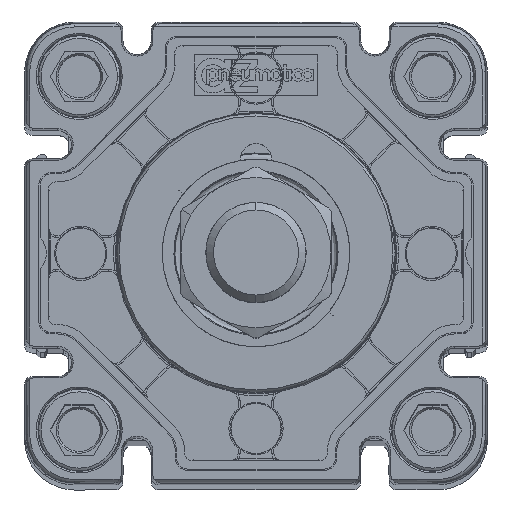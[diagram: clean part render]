
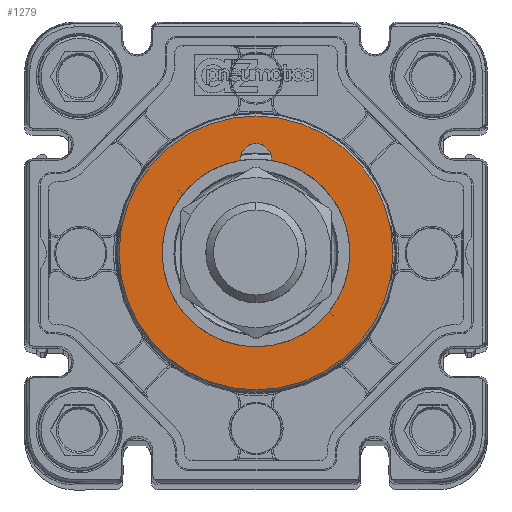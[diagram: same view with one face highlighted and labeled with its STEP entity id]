
A CAD part, top view. The second image highlights one B-rep face of the part: STEP entity #1279.
In plain terms, the highlighted planar face has unit normal (0, 0, 1) as drawn and (0, 0, -1) by its records, which use the part's own axes.
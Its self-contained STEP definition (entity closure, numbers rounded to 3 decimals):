
#571 = CIRCLE ( 'NONE', #4687, 21.892 ) ;
#805 = CIRCLE ( 'NONE', #29988, 15. ) ;
#922 = CARTESIAN_POINT ( 'NONE',  ( 15., 0., -57.7 ) ) ;
#1279 = ADVANCED_FACE ( 'NONE', ( #50658, #9394 ), #8314, .T. ) ;
#1315 = DIRECTION ( 'NONE',  ( 0., 0., 1. ) ) ;
#1653 = AXIS2_PLACEMENT_3D ( 'NONE', #32990, #16845, #5579 ) ;
#1676 = VERTEX_POINT ( 'NONE', #3590 ) ;
#1735 = EDGE_LOOP ( 'NONE', ( #44797, #19265, #39100, #23826, #10485, #16586 ) ) ;
#1901 = AXIS2_PLACEMENT_3D ( 'NONE', #22457, #2063, #10361 ) ;
#2063 = DIRECTION ( 'NONE',  ( 0., 0., 1. ) ) ;
#3524 = DIRECTION ( 'NONE',  ( -1., 0., 0. ) ) ;
#3590 = CARTESIAN_POINT ( 'NONE',  ( -21.892, 0., -57.7 ) ) ;
#4455 = ORIENTED_EDGE ( 'NONE', *, *, #33912, .F. ) ;
#4687 = AXIS2_PLACEMENT_3D ( 'NONE', #12966, #5143, #21697 ) ;
#5143 = DIRECTION ( 'NONE',  ( 0., 0., 1. ) ) ;
#5579 = DIRECTION ( 'NONE',  ( -1., 0., 0. ) ) ;
#6770 = CARTESIAN_POINT ( 'NONE',  ( 0., 0., -57.7 ) ) ;
#8214 = EDGE_CURVE ( 'NONE', #1676, #31224, #571, .T. ) ;
#8314 = PLANE ( 'NONE',  #1653 ) ;
#8614 = CIRCLE ( 'NONE', #51805, 2.5 ) ;
#9394 = FACE_BOUND ( 'NONE', #1735, .T. ) ;
#10361 = DIRECTION ( 'NONE',  ( 1., 0., 0. ) ) ;
#10485 = ORIENTED_EDGE ( 'NONE', *, *, #11847, .T. ) ;
#11344 = CIRCLE ( 'NONE', #16799, 2.5 ) ;
#11847 = EDGE_CURVE ( 'NONE', #22023, #40910, #30019, .T. ) ;
#12327 = DIRECTION ( 'NONE',  ( 1., 0., 0. ) ) ;
#12672 = VERTEX_POINT ( 'NONE', #44370 ) ;
#12966 = CARTESIAN_POINT ( 'NONE',  ( 0., 0., -57.7 ) ) ;
#13496 = VERTEX_POINT ( 'NONE', #17155 ) ;
#14884 = VERTEX_POINT ( 'NONE', #25681 ) ;
#15180 = CARTESIAN_POINT ( 'NONE',  ( 0., 0., -57.7 ) ) ;
#16432 = DIRECTION ( 'NONE',  ( 0., 0., 1. ) ) ;
#16586 = ORIENTED_EDGE ( 'NONE', *, *, #21418, .T. ) ;
#16799 = AXIS2_PLACEMENT_3D ( 'NONE', #36772, #32359, #49166 ) ;
#16845 = DIRECTION ( 'NONE',  ( 0., 0., -1. ) ) ;
#16926 = EDGE_CURVE ( 'NONE', #12672, #42605, #11344, .T. ) ;
#17155 = CARTESIAN_POINT ( 'NONE',  ( 2.491, 14.792, -57.7 ) ) ;
#19265 = ORIENTED_EDGE ( 'NONE', *, *, #16926, .T. ) ;
#20512 = CARTESIAN_POINT ( 'NONE',  ( 0., 0., -57.7 ) ) ;
#21418 = EDGE_CURVE ( 'NONE', #40910, #13496, #805, .T. ) ;
#21697 = DIRECTION ( 'NONE',  ( -1., 0., 0. ) ) ;
#22023 = VERTEX_POINT ( 'NONE', #36586 ) ;
#22457 = CARTESIAN_POINT ( 'NONE',  ( 0., 0., -57.7 ) ) ;
#22658 = AXIS2_PLACEMENT_3D ( 'NONE', #6770, #27217, #51697 ) ;
#22879 = DIRECTION ( 'NONE',  ( -1., 0., 0. ) ) ;
#23366 = DIRECTION ( 'NONE',  ( 0., 0., 1. ) ) ;
#23826 = ORIENTED_EDGE ( 'NONE', *, *, #30986, .T. ) ;
#25359 = AXIS2_PLACEMENT_3D ( 'NONE', #47121, #50839, #22879 ) ;
#25626 = CARTESIAN_POINT ( 'NONE',  ( 0., 15., -57.7 ) ) ;
#25681 = CARTESIAN_POINT ( 'NONE',  ( -2.491, 14.792, -57.7 ) ) ;
#27217 = DIRECTION ( 'NONE',  ( 0., 0., 1. ) ) ;
#27250 = EDGE_CURVE ( 'NONE', #13496, #12672, #8614, .T. ) ;
#28963 = EDGE_CURVE ( 'NONE', #42605, #14884, #38652, .T. ) ;
#29988 = AXIS2_PLACEMENT_3D ( 'NONE', #20512, #16432, #12327 ) ;
#30019 = CIRCLE ( 'NONE', #22658, 15. ) ;
#30163 = ORIENTED_EDGE ( 'NONE', *, *, #8214, .F. ) ;
#30986 = EDGE_CURVE ( 'NONE', #14884, #22023, #34605, .T. ) ;
#31224 = VERTEX_POINT ( 'NONE', #39798 ) ;
#31670 = AXIS2_PLACEMENT_3D ( 'NONE', #15180, #23366, #3524 ) ;
#32359 = DIRECTION ( 'NONE',  ( 0., 0., 1. ) ) ;
#32990 = CARTESIAN_POINT ( 'NONE',  ( 0., 0., -57.7 ) ) ;
#33912 = EDGE_CURVE ( 'NONE', #31224, #1676, #52534, .T. ) ;
#34605 = CIRCLE ( 'NONE', #1901, 15. ) ;
#36586 = CARTESIAN_POINT ( 'NONE',  ( -15., 0., -57.7 ) ) ;
#36772 = CARTESIAN_POINT ( 'NONE',  ( 0., 15., -57.7 ) ) ;
#38652 = CIRCLE ( 'NONE', #25359, 2.5 ) ;
#39100 = ORIENTED_EDGE ( 'NONE', *, *, #28963, .T. ) ;
#39798 = CARTESIAN_POINT ( 'NONE',  ( 21.892, 0., -57.7 ) ) ;
#39891 = CARTESIAN_POINT ( 'NONE',  ( -2.5, 15., -57.7 ) ) ;
#40910 = VERTEX_POINT ( 'NONE', #922 ) ;
#42605 = VERTEX_POINT ( 'NONE', #39891 ) ;
#44370 = CARTESIAN_POINT ( 'NONE',  ( 2.5, 15., -57.7 ) ) ;
#44797 = ORIENTED_EDGE ( 'NONE', *, *, #27250, .T. ) ;
#47121 = CARTESIAN_POINT ( 'NONE',  ( 0., 15., -57.7 ) ) ;
#49166 = DIRECTION ( 'NONE',  ( -1., 0., 0. ) ) ;
#50320 = EDGE_LOOP ( 'NONE', ( #30163, #4455 ) ) ;
#50401 = DIRECTION ( 'NONE',  ( -1., 0., 0. ) ) ;
#50658 = FACE_OUTER_BOUND ( 'NONE', #50320, .T. ) ;
#50839 = DIRECTION ( 'NONE',  ( 0., 0., 1. ) ) ;
#51697 = DIRECTION ( 'NONE',  ( 1., 0., 0. ) ) ;
#51805 = AXIS2_PLACEMENT_3D ( 'NONE', #25626, #1315, #50401 ) ;
#52534 = CIRCLE ( 'NONE', #31670, 21.892 ) ;
